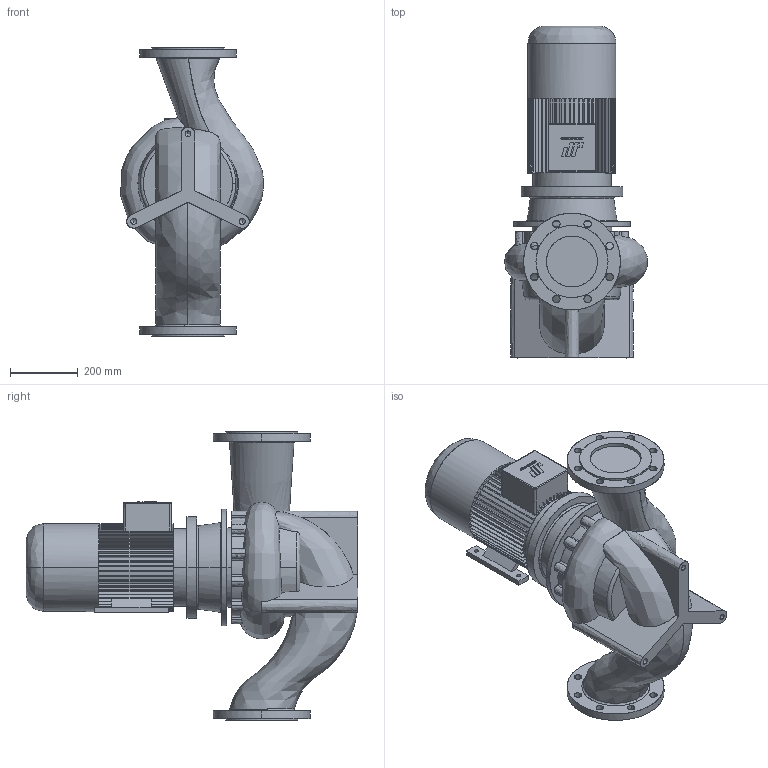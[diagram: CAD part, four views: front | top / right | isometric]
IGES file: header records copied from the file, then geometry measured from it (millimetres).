
Start section: CombiLine
Global section: file name: CLB_150-250_IEC132M_ND10.igs; native system:  By UGS Corp.; preprocessor: XPlus GENERIC/IGES 3.0; author: Stageplaats; organization: Johnson Pump Water B.V.; date: 20070718.084129; units: millimetre
Bounding box: 420.53 x 976.5 x 850 mm (x, y, z)
Surface area: 2184533.2 mm2 (no closed solid volume)
Topology: 0 solids, 0 shells, 617 faces, 3740 edges, 3734 vertices
Faces by surface type: bspline 617
